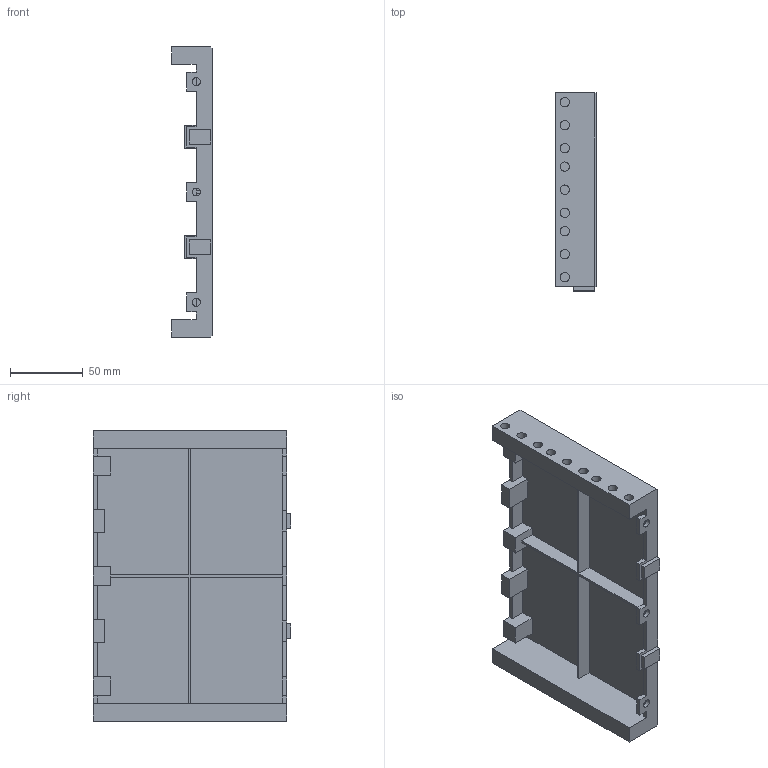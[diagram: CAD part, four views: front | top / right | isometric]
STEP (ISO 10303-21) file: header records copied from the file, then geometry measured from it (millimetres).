
FILE_DESCRIPTION(('Open CASCADE Model'),'2;1');
FILE_NAME('Open CASCADE Shape Model','2026-10-27T02:33:58',('Author'),( 'Open CASCADE'),'Open CASCADE STEP processor 7.9','Open CASCADE 7.9' ,'Unknown');
FILE_SCHEMA(('AUTOMOTIVE_DESIGN { 1 0 10303 214 1 1 1 1 }'));
Length unit declared in the file: millimetre
Products named in the file (1): Open CASCADE STEP translator 7.9 2
Bounding box: 28 x 136.35 x 200 mm (x, y, z)
Volume: 137123.9 mm3; surface area: 90622.2 mm2
Topology: 1 solids, 1 shells, 144 faces, 354 edges, 236 vertices
Faces by surface type: plane 120, cylinder 24
Full cylindrical faces by diameter (mm): 5.5 x3, 6.4 x21
Entity records: 8705 total; most frequent: CARTESIAN_POINT 1813, DIRECTION 1167, LINE 754, VECTOR 754, ORIENTED_EDGE 708, PCURVE 708, DEFINITIONAL_REPRESENTATION 708, EDGE_CURVE 354
